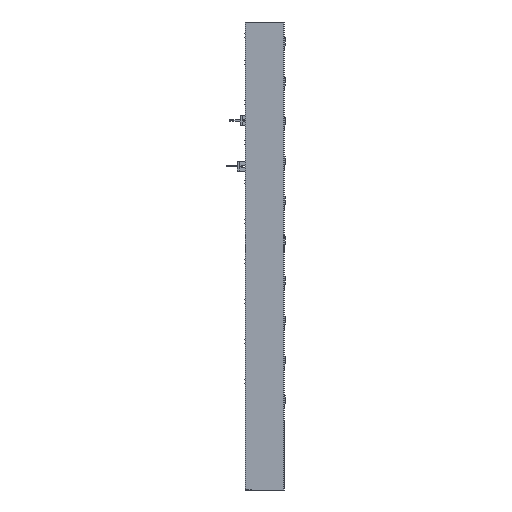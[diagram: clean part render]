
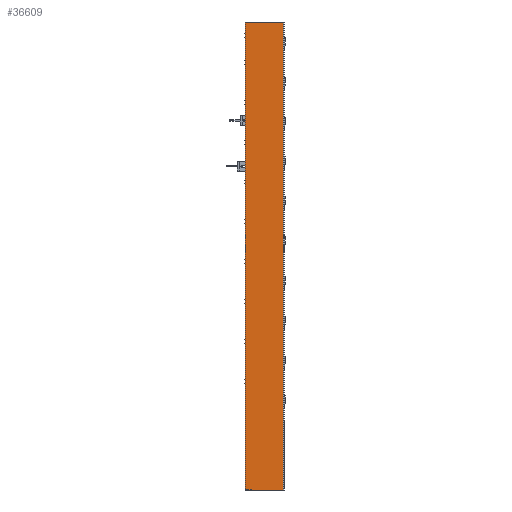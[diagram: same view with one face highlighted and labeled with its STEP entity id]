
A CAD part, left-side view. The second image highlights one B-rep face of the part: STEP entity #36609.
In plain terms, the highlighted planar face has unit normal (-1, 0, 0).
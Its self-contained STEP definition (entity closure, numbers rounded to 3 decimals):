
#4274=B_SPLINE_CURVE_WITH_KNOTS('',1,(#388903,#388904),.UNSPECIFIED.,.F.,
 .F.,(2,2),(0.,235.),.UNSPECIFIED.);
#4276=B_SPLINE_CURVE_WITH_KNOTS('',1,(#388907,#388908),.UNSPECIFIED.,.F.,
 .F.,(2,2),(195.,385.015),.UNSPECIFIED.);
#4277=B_SPLINE_CURVE_WITH_KNOTS('',1,(#388909,#388910),.UNSPECIFIED.,.F.,
 .F.,(2,2),(195.,385.015),.UNSPECIFIED.);
#36609=ADVANCED_FACE('',(#57269),#317972,.T.);
#57269=FACE_OUTER_BOUND('',#77960,.T.);
#77960=EDGE_LOOP('',(#101099,#101100,#101101,#101102));
#101099=ORIENTED_EDGE('',*,*,#206430,.F.);
#101100=ORIENTED_EDGE('',*,*,#206427,.F.);
#101101=ORIENTED_EDGE('',*,*,#206429,.T.);
#101102=ORIENTED_EDGE('',*,*,#206456,.F.);
#206427=EDGE_CURVE('',#284111,#284112,#4274,.T.);
#206429=EDGE_CURVE('',#284111,#284127,#4276,.T.);
#206430=EDGE_CURVE('',#284112,#284126,#4277,.T.);
#206456=EDGE_CURVE('',#284126,#284127,#260816,.T.);
#260816=(
BOUNDED_CURVE()
B_SPLINE_CURVE(1,(#388969,#388970),.UNSPECIFIED.,.F.,.F.)
B_SPLINE_CURVE_WITH_KNOTS((2,2),(-2350.,0.),.UNSPECIFIED.)
CURVE()
GEOMETRIC_REPRESENTATION_ITEM()
RATIONAL_B_SPLINE_CURVE((1.,1.))
REPRESENTATION_ITEM('')
);
#284111=VERTEX_POINT('',#388852);
#284112=VERTEX_POINT('',#388853);
#284126=VERTEX_POINT('',#388867);
#284127=VERTEX_POINT('',#388868);
#317972=PLANE('',#335939);
#335939=AXIS2_PLACEMENT_3D('',#388838,#353715,$);
#353715=DIRECTION('',(-1.,0.,0.));
#388838=CARTESIAN_POINT('',(-2.626,682.434,-461.894));
#388852=CARTESIAN_POINT('',(-2.626,682.434,-461.894));
#388853=CARTESIAN_POINT('',(-2.626,682.434,1888.106));
#388867=CARTESIAN_POINT('',(-2.626,491.434,1888.106));
#388868=CARTESIAN_POINT('',(-2.626,491.434,-461.894));
#388903=CARTESIAN_POINT('',(-2.626,682.434,-461.894));
#388904=CARTESIAN_POINT('',(-2.626,682.434,1888.106));
#388907=CARTESIAN_POINT('',(-2.626,682.434,-461.894));
#388908=CARTESIAN_POINT('',(-2.626,491.434,-461.894));
#388909=CARTESIAN_POINT('',(-2.626,682.434,1888.106));
#388910=CARTESIAN_POINT('',(-2.626,491.434,1888.106));
#388969=CARTESIAN_POINT('',(-2.626,491.434,1888.106));
#388970=CARTESIAN_POINT('',(-2.626,491.434,-461.894));
